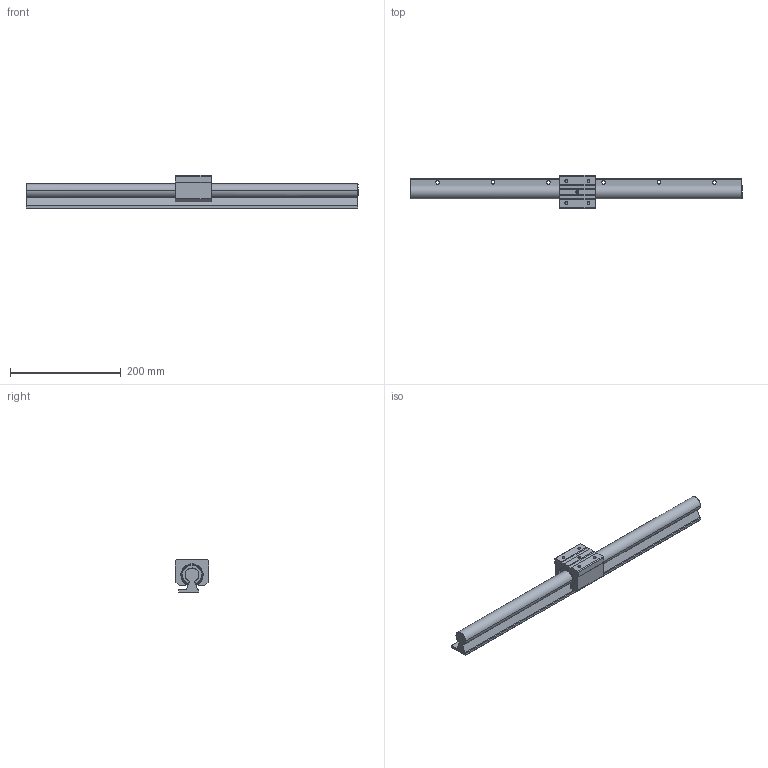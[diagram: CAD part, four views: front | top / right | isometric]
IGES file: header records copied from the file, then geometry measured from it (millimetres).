
Global section: file name: No Iges File Name specified; native system: AutoDesk Inventor R10; preprocessor: AutoDesk Inventor Iges Exporter R10; author: No Author specified; organization: No Organization specified; date: 20101221.091438; units: millimetre
Bounding box: 600 x 60 x 60 mm (x, y, z)
Surface area: 127679.4 mm2 (no closed solid volume)
Topology: 0 solids, 0 shells, 220 faces, 1448 edges, 1426 vertices
Faces by surface type: bspline 220
